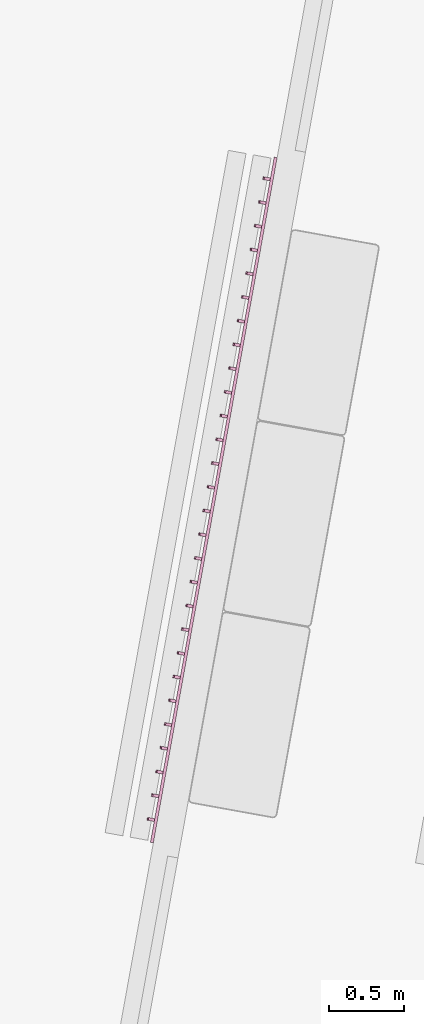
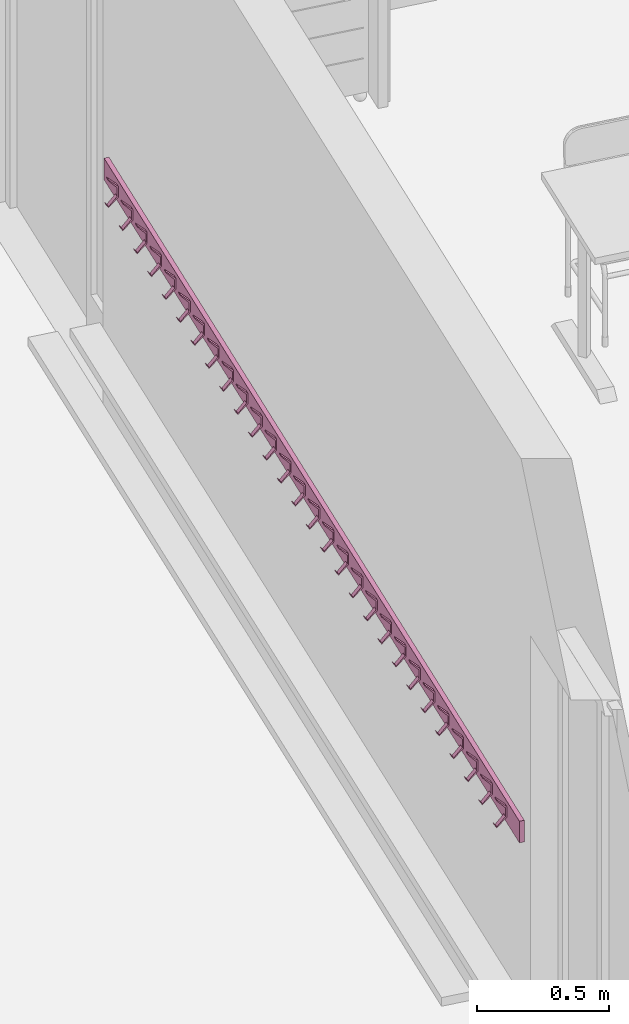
# One storey, part 12 of 79: 1 furnishing.
"""IFC2X3 building model written with IfcOpenShell, lengths in metres."""

from ifc_helpers import new_model, entity, si_unit, converted_unit, derived_unit, money_unit, direction, frame, origin_with_axes, place, context, subcontext, project, spatial, faceted_brep, source, transform, mapped, material, type_object, element, save


model = new_model("IFC2X3")

# Units and contexts
model_context = context("Model", 3, precision=1e-05, world=origin_with_axes(), true_north=direction((0.0, 1.0)))
body_context = subcontext(model_context, "Body", "Model", "MODEL_VIEW")
ifc_project = project(units=[si_unit("LENGTHUNIT", "METRE"), si_unit("AREAUNIT", "SQUARE_METRE"), si_unit("VOLUMEUNIT", "CUBIC_METRE"), converted_unit("PLANEANGLEUNIT", "DEGREE", entity("IfcPlaneAngleMeasure", 0.0174532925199), si_unit("PLANEANGLEUNIT", "RADIAN"), dimensions=[0, 0, 0, 0, 0, 0, 0]), money_unit("CHF"), converted_unit("TIMEUNIT", "Year", entity("IfcTimeMeasure", 31556926.0), si_unit("TIMEUNIT", "SECOND"), dimensions=[0, 0, 1, 0, 0, 0, 0]), si_unit("MASSUNIT", "GRAM", prefix="KILO"), si_unit("THERMODYNAMICTEMPERATUREUNIT", "DEGREE_CELSIUS"), si_unit("LUMINOUSINTENSITYUNIT", "LUMEN"), si_unit("ENERGYUNIT", "JOULE", prefix="MEGA"), derived_unit("THERMALCONDUCTANCEUNIT", [(si_unit("POWERUNIT", "WATT"), 1), (si_unit("LENGTHUNIT", "METRE"), -1), (si_unit("THERMODYNAMICTEMPERATUREUNIT", "KELVIN"), -1)]), derived_unit("SPECIFICHEATCAPACITYUNIT", [(si_unit("ENERGYUNIT", "JOULE"), 1), (si_unit("MASSUNIT", "GRAM", prefix="KILO"), -1), (si_unit("THERMODYNAMICTEMPERATUREUNIT", "KELVIN"), -1)]), derived_unit("MASSDENSITYUNIT", [(si_unit("MASSUNIT", "GRAM", prefix="KILO"), 1), (si_unit("VOLUMEUNIT", "CUBIC_METRE"), -1)])], contexts=[model_context])

# Site, building, storey
site_placement = place(None, frame((0.0, 0.0, 0.0), z_axis=(0.0, 0.0, 1.0), x_axis=(-0.177771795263, -0.984071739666, 0.0)))
site = spatial("IfcSite", under=ifc_project, at=site_placement, Name="Site", CompositionType="ELEMENT")
building_placement = place(site_placement, origin_with_axes())
building = spatial("IfcBuilding", under=site, at=building_placement, Name="Bâtiment", CompositionType="ELEMENT")
storey_placement = place(building_placement, origin_with_axes())
storey = spatial("IfcBuildingStorey", under=building, at=storey_placement, Name="RDC", CompositionType="ELEMENT", Elevation=0.0)

# Furnishing
ifc_material = material(Name="Matériau de construction IFC")
furnishing_element_type = type_object("IfcFurnishingElementType", Name="Râtelier mural 21")
shared_shape = source(origin_with_axes(), body_context, "Body", "Brep", [
    faceted_brep([(-2.33000000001, 0.0, 0.0), (2.33000000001, 0.0, 0.0), (2.33000000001, -0.02, 0.0), (-2.33000000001, -0.02, 0.0), (-2.33000000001, 0.0, 0.1), (2.33000000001, 0.0, 0.1), (2.33000000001, -0.02, 0.1), (-2.33000000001, -0.02, 0.1)], [[[0, 1, 2, 3]], [[1, 0, 4, 5]], [[2, 1, 5, 6]], [[3, 2, 6, 7]], [[0, 3, 7, 4]], [[5, 4, 7, 6]]]),
    faceted_brep([(2.16862068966, -0.06, -0.015), (2.16862068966, -0.02, 0.025), (2.18862068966, -0.02, 0.025), (2.18862068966, -0.06, -0.015), (2.16862068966, -0.07, 0.0), (2.16862068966, -0.0675, 0.0), (2.16862068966, -0.06, -0.01), (2.16862068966, -0.025, 0.03), (2.16862068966, -0.025, 0.07), (2.16862068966, -0.06, 0.11), (2.16862068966, -0.06, 0.115), (2.16862068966, -0.02, 0.075), (2.18862068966, -0.02, 0.075), (2.18862068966, -0.06, 0.115), (2.18862068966, -0.06, 0.11), (2.18862068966, -0.025, 0.07), (2.18862068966, -0.025, 0.03), (2.18862068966, -0.06, -0.01), (2.18862068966, -0.0675, 0.0), (2.18862068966, -0.07, 0.0)], [[[0, 1, 2, 3]], [[0, 4, 5, 6, 7, 8, 9, 10, 11, 1]], [[1, 11, 12, 2]], [[3, 2, 12, 13, 14, 15, 16, 17, 18, 19]], [[4, 0, 3, 19]], [[5, 4, 19, 18]], [[6, 5, 18, 17]], [[7, 6, 17, 16]], [[8, 7, 16, 15]], [[9, 8, 15, 14]], [[10, 9, 14, 13]], [[11, 10, 13, 12]]]),
    faceted_brep([(2.00724137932, -0.06, -0.015), (2.00724137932, -0.02, 0.025), (2.02724137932, -0.02, 0.025), (2.02724137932, -0.06, -0.015), (2.00724137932, -0.07, 0.0), (2.00724137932, -0.0675, 0.0), (2.00724137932, -0.06, -0.01), (2.00724137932, -0.025, 0.03), (2.00724137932, -0.025, 0.07), (2.00724137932, -0.06, 0.11), (2.00724137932, -0.06, 0.115), (2.00724137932, -0.02, 0.075), (2.02724137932, -0.02, 0.075), (2.02724137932, -0.06, 0.115), (2.02724137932, -0.06, 0.11), (2.02724137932, -0.025, 0.07), (2.02724137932, -0.025, 0.03), (2.02724137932, -0.06, -0.01), (2.02724137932, -0.0675, 0.0), (2.02724137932, -0.07, 0.0)], [[[0, 1, 2, 3]], [[0, 4, 5, 6, 7, 8, 9, 10, 11, 1]], [[1, 11, 12, 2]], [[3, 2, 12, 13, 14, 15, 16, 17, 18, 19]], [[4, 0, 3, 19]], [[5, 4, 19, 18]], [[6, 5, 18, 17]], [[7, 6, 17, 16]], [[8, 7, 16, 15]], [[9, 8, 15, 14]], [[10, 9, 14, 13]], [[11, 10, 13, 12]]]),
    faceted_brep([(1.84586206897, -0.06, -0.015), (1.84586206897, -0.02, 0.025), (1.86586206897, -0.02, 0.025), (1.86586206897, -0.06, -0.015), (1.84586206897, -0.07, 0.0), (1.84586206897, -0.0675, 0.0), (1.84586206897, -0.06, -0.01), (1.84586206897, -0.025, 0.03), (1.84586206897, -0.025, 0.07), (1.84586206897, -0.06, 0.11), (1.84586206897, -0.06, 0.115), (1.84586206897, -0.02, 0.075), (1.86586206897, -0.02, 0.075), (1.86586206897, -0.06, 0.115), (1.86586206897, -0.06, 0.11), (1.86586206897, -0.025, 0.07), (1.86586206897, -0.025, 0.03), (1.86586206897, -0.06, -0.01), (1.86586206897, -0.0675, 0.0), (1.86586206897, -0.07, 0.0)], [[[0, 1, 2, 3]], [[0, 4, 5, 6, 7, 8, 9, 10, 11, 1]], [[1, 11, 12, 2]], [[3, 2, 12, 13, 14, 15, 16, 17, 18, 19]], [[4, 0, 3, 19]], [[5, 4, 19, 18]], [[6, 5, 18, 17]], [[7, 6, 17, 16]], [[8, 7, 16, 15]], [[9, 8, 15, 14]], [[10, 9, 14, 13]], [[11, 10, 13, 12]]]),
    faceted_brep([(1.68448275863, -0.06, -0.015), (1.68448275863, -0.02, 0.025), (1.70448275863, -0.02, 0.025), (1.70448275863, -0.06, -0.015), (1.68448275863, -0.07, 0.0), (1.68448275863, -0.0675, 0.0), (1.68448275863, -0.06, -0.01), (1.68448275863, -0.025, 0.03), (1.68448275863, -0.025, 0.07), (1.68448275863, -0.06, 0.11), (1.68448275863, -0.06, 0.115), (1.68448275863, -0.02, 0.075), (1.70448275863, -0.02, 0.075), (1.70448275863, -0.06, 0.115), (1.70448275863, -0.06, 0.11), (1.70448275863, -0.025, 0.07), (1.70448275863, -0.025, 0.03), (1.70448275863, -0.06, -0.01), (1.70448275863, -0.0675, 0.0), (1.70448275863, -0.07, 0.0)], [[[0, 1, 2, 3]], [[0, 4, 5, 6, 7, 8, 9, 10, 11, 1]], [[1, 11, 12, 2]], [[3, 2, 12, 13, 14, 15, 16, 17, 18, 19]], [[4, 0, 3, 19]], [[5, 4, 19, 18]], [[6, 5, 18, 17]], [[7, 6, 17, 16]], [[8, 7, 16, 15]], [[9, 8, 15, 14]], [[10, 9, 14, 13]], [[11, 10, 13, 12]]]),
    faceted_brep([(1.52310344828, -0.06, -0.015), (1.52310344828, -0.02, 0.025), (1.54310344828, -0.02, 0.025), (1.54310344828, -0.06, -0.015), (1.52310344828, -0.07, 0.0), (1.52310344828, -0.0675, 0.0), (1.52310344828, -0.06, -0.01), (1.52310344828, -0.025, 0.03), (1.52310344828, -0.025, 0.07), (1.52310344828, -0.06, 0.11), (1.52310344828, -0.06, 0.115), (1.52310344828, -0.02, 0.075), (1.54310344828, -0.02, 0.075), (1.54310344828, -0.06, 0.115), (1.54310344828, -0.06, 0.11), (1.54310344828, -0.025, 0.07), (1.54310344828, -0.025, 0.03), (1.54310344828, -0.06, -0.01), (1.54310344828, -0.0675, 0.0), (1.54310344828, -0.07, 0.0)], [[[0, 1, 2, 3]], [[0, 4, 5, 6, 7, 8, 9, 10, 11, 1]], [[1, 11, 12, 2]], [[3, 2, 12, 13, 14, 15, 16, 17, 18, 19]], [[4, 0, 3, 19]], [[5, 4, 19, 18]], [[6, 5, 18, 17]], [[7, 6, 17, 16]], [[8, 7, 16, 15]], [[9, 8, 15, 14]], [[10, 9, 14, 13]], [[11, 10, 13, 12]]]),
    faceted_brep([(1.36172413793, -0.06, -0.015), (1.36172413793, -0.02, 0.025), (1.38172413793, -0.02, 0.025), (1.38172413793, -0.06, -0.015), (1.36172413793, -0.07, 0.0), (1.36172413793, -0.0675, 0.0), (1.36172413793, -0.06, -0.01), (1.36172413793, -0.025, 0.03), (1.36172413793, -0.025, 0.07), (1.36172413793, -0.06, 0.11), (1.36172413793, -0.06, 0.115), (1.36172413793, -0.02, 0.075), (1.38172413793, -0.02, 0.075), (1.38172413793, -0.06, 0.115), (1.38172413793, -0.06, 0.11), (1.38172413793, -0.025, 0.07), (1.38172413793, -0.025, 0.03), (1.38172413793, -0.06, -0.01), (1.38172413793, -0.0675, 0.0), (1.38172413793, -0.07, 0.0)], [[[0, 1, 2, 3]], [[0, 4, 5, 6, 7, 8, 9, 10, 11, 1]], [[1, 11, 12, 2]], [[3, 2, 12, 13, 14, 15, 16, 17, 18, 19]], [[4, 0, 3, 19]], [[5, 4, 19, 18]], [[6, 5, 18, 17]], [[7, 6, 17, 16]], [[8, 7, 16, 15]], [[9, 8, 15, 14]], [[10, 9, 14, 13]], [[11, 10, 13, 12]]]),
    faceted_brep([(1.20034482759, -0.06, -0.015), (1.20034482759, -0.02, 0.025), (1.22034482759, -0.02, 0.025), (1.22034482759, -0.06, -0.015), (1.20034482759, -0.07, 0.0), (1.20034482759, -0.0675, 0.0), (1.20034482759, -0.06, -0.01), (1.20034482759, -0.025, 0.03), (1.20034482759, -0.025, 0.07), (1.20034482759, -0.06, 0.11), (1.20034482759, -0.06, 0.115), (1.20034482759, -0.02, 0.075), (1.22034482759, -0.02, 0.075), (1.22034482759, -0.06, 0.115), (1.22034482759, -0.06, 0.11), (1.22034482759, -0.025, 0.07), (1.22034482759, -0.025, 0.03), (1.22034482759, -0.06, -0.01), (1.22034482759, -0.0675, 0.0), (1.22034482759, -0.07, 0.0)], [[[0, 1, 2, 3]], [[0, 4, 5, 6, 7, 8, 9, 10, 11, 1]], [[1, 11, 12, 2]], [[3, 2, 12, 13, 14, 15, 16, 17, 18, 19]], [[4, 0, 3, 19]], [[5, 4, 19, 18]], [[6, 5, 18, 17]], [[7, 6, 17, 16]], [[8, 7, 16, 15]], [[9, 8, 15, 14]], [[10, 9, 14, 13]], [[11, 10, 13, 12]]]),
    faceted_brep([(1.03896551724, -0.06, -0.015), (1.03896551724, -0.02, 0.025), (1.05896551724, -0.02, 0.025), (1.05896551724, -0.06, -0.015), (1.03896551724, -0.07, 0.0), (1.03896551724, -0.0675, 0.0), (1.03896551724, -0.06, -0.01), (1.03896551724, -0.025, 0.03), (1.03896551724, -0.025, 0.07), (1.03896551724, -0.06, 0.11), (1.03896551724, -0.06, 0.115), (1.03896551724, -0.02, 0.075), (1.05896551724, -0.02, 0.075), (1.05896551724, -0.06, 0.115), (1.05896551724, -0.06, 0.11), (1.05896551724, -0.025, 0.07), (1.05896551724, -0.025, 0.03), (1.05896551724, -0.06, -0.01), (1.05896551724, -0.0675, 0.0), (1.05896551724, -0.07, 0.0)], [[[0, 1, 2, 3]], [[0, 4, 5, 6, 7, 8, 9, 10, 11, 1]], [[1, 11, 12, 2]], [[3, 2, 12, 13, 14, 15, 16, 17, 18, 19]], [[4, 0, 3, 19]], [[5, 4, 19, 18]], [[6, 5, 18, 17]], [[7, 6, 17, 16]], [[8, 7, 16, 15]], [[9, 8, 15, 14]], [[10, 9, 14, 13]], [[11, 10, 13, 12]]]),
    faceted_brep([(0.877586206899, -0.06, -0.015), (0.877586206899, -0.02, 0.025), (0.897586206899, -0.02, 0.025), (0.897586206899, -0.06, -0.015), (0.877586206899, -0.07, 0.0), (0.877586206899, -0.0675, 0.0), (0.877586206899, -0.06, -0.01), (0.877586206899, -0.025, 0.03), (0.877586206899, -0.025, 0.07), (0.877586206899, -0.06, 0.11), (0.877586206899, -0.06, 0.115), (0.877586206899, -0.02, 0.075), (0.897586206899, -0.02, 0.075), (0.897586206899, -0.06, 0.115), (0.897586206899, -0.06, 0.11), (0.897586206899, -0.025, 0.07), (0.897586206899, -0.025, 0.03), (0.897586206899, -0.06, -0.01), (0.897586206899, -0.0675, 0.0), (0.897586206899, -0.07, 0.0)], [[[0, 1, 2, 3]], [[0, 4, 5, 6, 7, 8, 9, 10, 11, 1]], [[1, 11, 12, 2]], [[3, 2, 12, 13, 14, 15, 16, 17, 18, 19]], [[4, 0, 3, 19]], [[5, 4, 19, 18]], [[6, 5, 18, 17]], [[7, 6, 17, 16]], [[8, 7, 16, 15]], [[9, 8, 15, 14]], [[10, 9, 14, 13]], [[11, 10, 13, 12]]]),
    faceted_brep([(0.716206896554, -0.06, -0.015), (0.716206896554, -0.02, 0.025), (0.736206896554, -0.02, 0.025), (0.736206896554, -0.06, -0.015), (0.716206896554, -0.07, 0.0), (0.716206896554, -0.0675, 0.0), (0.716206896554, -0.06, -0.01), (0.716206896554, -0.025, 0.03), (0.716206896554, -0.025, 0.07), (0.716206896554, -0.06, 0.11), (0.716206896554, -0.06, 0.115), (0.716206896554, -0.02, 0.075), (0.736206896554, -0.02, 0.075), (0.736206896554, -0.06, 0.115), (0.736206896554, -0.06, 0.11), (0.736206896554, -0.025, 0.07), (0.736206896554, -0.025, 0.03), (0.736206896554, -0.06, -0.01), (0.736206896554, -0.0675, 0.0), (0.736206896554, -0.07, 0.0)], [[[0, 1, 2, 3]], [[0, 4, 5, 6, 7, 8, 9, 10, 11, 1]], [[1, 11, 12, 2]], [[3, 2, 12, 13, 14, 15, 16, 17, 18, 19]], [[4, 0, 3, 19]], [[5, 4, 19, 18]], [[6, 5, 18, 17]], [[7, 6, 17, 16]], [[8, 7, 16, 15]], [[9, 8, 15, 14]], [[10, 9, 14, 13]], [[11, 10, 13, 12]]]),
    faceted_brep([(0.554827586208, -0.06, -0.015), (0.554827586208, -0.02, 0.025), (0.574827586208, -0.02, 0.025), (0.574827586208, -0.06, -0.015), (0.554827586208, -0.07, 0.0), (0.554827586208, -0.0675, 0.0), (0.554827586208, -0.06, -0.01), (0.554827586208, -0.025, 0.03), (0.554827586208, -0.025, 0.07), (0.554827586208, -0.06, 0.11), (0.554827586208, -0.06, 0.115), (0.554827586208, -0.02, 0.075), (0.574827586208, -0.02, 0.075), (0.574827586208, -0.06, 0.115), (0.574827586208, -0.06, 0.11), (0.574827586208, -0.025, 0.07), (0.574827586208, -0.025, 0.03), (0.574827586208, -0.06, -0.01), (0.574827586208, -0.0675, 0.0), (0.574827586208, -0.07, 0.0)], [[[0, 1, 2, 3]], [[0, 4, 5, 6, 7, 8, 9, 10, 11, 1]], [[1, 11, 12, 2]], [[3, 2, 12, 13, 14, 15, 16, 17, 18, 19]], [[4, 0, 3, 19]], [[5, 4, 19, 18]], [[6, 5, 18, 17]], [[7, 6, 17, 16]], [[8, 7, 16, 15]], [[9, 8, 15, 14]], [[10, 9, 14, 13]], [[11, 10, 13, 12]]]),
    faceted_brep([(0.393448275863, -0.06, -0.015), (0.393448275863, -0.02, 0.025), (0.413448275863, -0.02, 0.025), (0.413448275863, -0.06, -0.015), (0.393448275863, -0.07, 0.0), (0.393448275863, -0.0675, 0.0), (0.393448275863, -0.06, -0.01), (0.393448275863, -0.025, 0.03), (0.393448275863, -0.025, 0.07), (0.393448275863, -0.06, 0.11), (0.393448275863, -0.06, 0.115), (0.393448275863, -0.02, 0.075), (0.413448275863, -0.02, 0.075), (0.413448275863, -0.06, 0.115), (0.413448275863, -0.06, 0.11), (0.413448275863, -0.025, 0.07), (0.413448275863, -0.025, 0.03), (0.413448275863, -0.06, -0.01), (0.413448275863, -0.0675, 0.0), (0.413448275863, -0.07, 0.0)], [[[0, 1, 2, 3]], [[0, 4, 5, 6, 7, 8, 9, 10, 11, 1]], [[1, 11, 12, 2]], [[3, 2, 12, 13, 14, 15, 16, 17, 18, 19]], [[4, 0, 3, 19]], [[5, 4, 19, 18]], [[6, 5, 18, 17]], [[7, 6, 17, 16]], [[8, 7, 16, 15]], [[9, 8, 15, 14]], [[10, 9, 14, 13]], [[11, 10, 13, 12]]]),
    faceted_brep([(0.232068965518, -0.06, -0.015), (0.232068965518, -0.02, 0.025), (0.252068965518, -0.02, 0.025), (0.252068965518, -0.06, -0.015), (0.232068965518, -0.07, 0.0), (0.232068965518, -0.0675, 0.0), (0.232068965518, -0.06, -0.01), (0.232068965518, -0.025, 0.03), (0.232068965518, -0.025, 0.07), (0.232068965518, -0.06, 0.11), (0.232068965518, -0.06, 0.115), (0.232068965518, -0.02, 0.075), (0.252068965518, -0.02, 0.075), (0.252068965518, -0.06, 0.115), (0.252068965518, -0.06, 0.11), (0.252068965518, -0.025, 0.07), (0.252068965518, -0.025, 0.03), (0.252068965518, -0.06, -0.01), (0.252068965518, -0.0675, 0.0), (0.252068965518, -0.07, 0.0)], [[[0, 1, 2, 3]], [[0, 4, 5, 6, 7, 8, 9, 10, 11, 1]], [[1, 11, 12, 2]], [[3, 2, 12, 13, 14, 15, 16, 17, 18, 19]], [[4, 0, 3, 19]], [[5, 4, 19, 18]], [[6, 5, 18, 17]], [[7, 6, 17, 16]], [[8, 7, 16, 15]], [[9, 8, 15, 14]], [[10, 9, 14, 13]], [[11, 10, 13, 12]]]),
    faceted_brep([(0.0706896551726, -0.06, -0.015), (0.0706896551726, -0.02, 0.025), (0.0906896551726, -0.02, 0.025), (0.0906896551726, -0.06, -0.015), (0.0706896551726, -0.07, 0.0), (0.0706896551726, -0.0675, 0.0), (0.0706896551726, -0.06, -0.01), (0.0706896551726, -0.025, 0.03), (0.0706896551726, -0.025, 0.07), (0.0706896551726, -0.06, 0.11), (0.0706896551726, -0.06, 0.115), (0.0706896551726, -0.02, 0.075), (0.0906896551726, -0.02, 0.075), (0.0906896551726, -0.06, 0.115), (0.0906896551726, -0.06, 0.11), (0.0906896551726, -0.025, 0.07), (0.0906896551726, -0.025, 0.03), (0.0906896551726, -0.06, -0.01), (0.0906896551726, -0.0675, 0.0), (0.0906896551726, -0.07, 0.0)], [[[0, 1, 2, 3]], [[0, 4, 5, 6, 7, 8, 9, 10, 11, 1]], [[1, 11, 12, 2]], [[3, 2, 12, 13, 14, 15, 16, 17, 18, 19]], [[4, 0, 3, 19]], [[5, 4, 19, 18]], [[6, 5, 18, 17]], [[7, 6, 17, 16]], [[8, 7, 16, 15]], [[9, 8, 15, 14]], [[10, 9, 14, 13]], [[11, 10, 13, 12]]]),
    faceted_brep([(-0.0906896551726, -0.06, -0.015), (-0.0906896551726, -0.02, 0.025), (-0.0706896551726, -0.02, 0.025), (-0.0706896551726, -0.06, -0.015), (-0.0906896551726, -0.07, 0.0), (-0.0906896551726, -0.0675, 0.0), (-0.0906896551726, -0.06, -0.01), (-0.0906896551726, -0.025, 0.03), (-0.0906896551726, -0.025, 0.07), (-0.0906896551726, -0.06, 0.11), (-0.0906896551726, -0.06, 0.115), (-0.0906896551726, -0.02, 0.075), (-0.0706896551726, -0.02, 0.075), (-0.0706896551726, -0.06, 0.115), (-0.0706896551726, -0.06, 0.11), (-0.0706896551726, -0.025, 0.07), (-0.0706896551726, -0.025, 0.03), (-0.0706896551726, -0.06, -0.01), (-0.0706896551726, -0.0675, 0.0), (-0.0706896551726, -0.07, 0.0)], [[[0, 1, 2, 3]], [[0, 4, 5, 6, 7, 8, 9, 10, 11, 1]], [[1, 11, 12, 2]], [[3, 2, 12, 13, 14, 15, 16, 17, 18, 19]], [[4, 0, 3, 19]], [[5, 4, 19, 18]], [[6, 5, 18, 17]], [[7, 6, 17, 16]], [[8, 7, 16, 15]], [[9, 8, 15, 14]], [[10, 9, 14, 13]], [[11, 10, 13, 12]]]),
    faceted_brep([(-0.252068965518, -0.06, -0.015), (-0.252068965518, -0.02, 0.025), (-0.232068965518, -0.02, 0.025), (-0.232068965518, -0.06, -0.015), (-0.252068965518, -0.07, 0.0), (-0.252068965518, -0.0675, 0.0), (-0.252068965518, -0.06, -0.01), (-0.252068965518, -0.025, 0.03), (-0.252068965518, -0.025, 0.07), (-0.252068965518, -0.06, 0.11), (-0.252068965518, -0.06, 0.115), (-0.252068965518, -0.02, 0.075), (-0.232068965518, -0.02, 0.075), (-0.232068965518, -0.06, 0.115), (-0.232068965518, -0.06, 0.11), (-0.232068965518, -0.025, 0.07), (-0.232068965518, -0.025, 0.03), (-0.232068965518, -0.06, -0.01), (-0.232068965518, -0.0675, 0.0), (-0.232068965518, -0.07, 0.0)], [[[0, 1, 2, 3]], [[0, 4, 5, 6, 7, 8, 9, 10, 11, 1]], [[1, 11, 12, 2]], [[3, 2, 12, 13, 14, 15, 16, 17, 18, 19]], [[4, 0, 3, 19]], [[5, 4, 19, 18]], [[6, 5, 18, 17]], [[7, 6, 17, 16]], [[8, 7, 16, 15]], [[9, 8, 15, 14]], [[10, 9, 14, 13]], [[11, 10, 13, 12]]]),
    faceted_brep([(-0.413448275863, -0.06, -0.015), (-0.413448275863, -0.02, 0.025), (-0.393448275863, -0.02, 0.025), (-0.393448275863, -0.06, -0.015), (-0.413448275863, -0.07, 0.0), (-0.413448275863, -0.0675, 0.0), (-0.413448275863, -0.06, -0.01), (-0.413448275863, -0.025, 0.03), (-0.413448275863, -0.025, 0.07), (-0.413448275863, -0.06, 0.11), (-0.413448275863, -0.06, 0.115), (-0.413448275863, -0.02, 0.075), (-0.393448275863, -0.02, 0.075), (-0.393448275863, -0.06, 0.115), (-0.393448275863, -0.06, 0.11), (-0.393448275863, -0.025, 0.07), (-0.393448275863, -0.025, 0.03), (-0.393448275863, -0.06, -0.01), (-0.393448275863, -0.0675, 0.0), (-0.393448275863, -0.07, 0.0)], [[[0, 1, 2, 3]], [[0, 4, 5, 6, 7, 8, 9, 10, 11, 1]], [[1, 11, 12, 2]], [[3, 2, 12, 13, 14, 15, 16, 17, 18, 19]], [[4, 0, 3, 19]], [[5, 4, 19, 18]], [[6, 5, 18, 17]], [[7, 6, 17, 16]], [[8, 7, 16, 15]], [[9, 8, 15, 14]], [[10, 9, 14, 13]], [[11, 10, 13, 12]]]),
    faceted_brep([(-0.574827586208, -0.06, -0.015), (-0.574827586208, -0.02, 0.025), (-0.554827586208, -0.02, 0.025), (-0.554827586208, -0.06, -0.015), (-0.574827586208, -0.07, 0.0), (-0.574827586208, -0.0675, 0.0), (-0.574827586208, -0.06, -0.01), (-0.574827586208, -0.025, 0.03), (-0.574827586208, -0.025, 0.07), (-0.574827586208, -0.06, 0.11), (-0.574827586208, -0.06, 0.115), (-0.574827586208, -0.02, 0.075), (-0.554827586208, -0.02, 0.075), (-0.554827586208, -0.06, 0.115), (-0.554827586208, -0.06, 0.11), (-0.554827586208, -0.025, 0.07), (-0.554827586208, -0.025, 0.03), (-0.554827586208, -0.06, -0.01), (-0.554827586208, -0.0675, 0.0), (-0.554827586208, -0.07, 0.0)], [[[0, 1, 2, 3]], [[0, 4, 5, 6, 7, 8, 9, 10, 11, 1]], [[1, 11, 12, 2]], [[3, 2, 12, 13, 14, 15, 16, 17, 18, 19]], [[4, 0, 3, 19]], [[5, 4, 19, 18]], [[6, 5, 18, 17]], [[7, 6, 17, 16]], [[8, 7, 16, 15]], [[9, 8, 15, 14]], [[10, 9, 14, 13]], [[11, 10, 13, 12]]]),
    faceted_brep([(-0.736206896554, -0.06, -0.015), (-0.736206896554, -0.02, 0.025), (-0.716206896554, -0.02, 0.025), (-0.716206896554, -0.06, -0.015), (-0.736206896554, -0.07, 0.0), (-0.736206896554, -0.0675, 0.0), (-0.736206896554, -0.06, -0.01), (-0.736206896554, -0.025, 0.03), (-0.736206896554, -0.025, 0.07), (-0.736206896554, -0.06, 0.11), (-0.736206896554, -0.06, 0.115), (-0.736206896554, -0.02, 0.075), (-0.716206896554, -0.02, 0.075), (-0.716206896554, -0.06, 0.115), (-0.716206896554, -0.06, 0.11), (-0.716206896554, -0.025, 0.07), (-0.716206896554, -0.025, 0.03), (-0.716206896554, -0.06, -0.01), (-0.716206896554, -0.0675, 0.0), (-0.716206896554, -0.07, 0.0)], [[[0, 1, 2, 3]], [[0, 4, 5, 6, 7, 8, 9, 10, 11, 1]], [[1, 11, 12, 2]], [[3, 2, 12, 13, 14, 15, 16, 17, 18, 19]], [[4, 0, 3, 19]], [[5, 4, 19, 18]], [[6, 5, 18, 17]], [[7, 6, 17, 16]], [[8, 7, 16, 15]], [[9, 8, 15, 14]], [[10, 9, 14, 13]], [[11, 10, 13, 12]]]),
    faceted_brep([(-0.897586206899, -0.06, -0.015), (-0.897586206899, -0.02, 0.025), (-0.877586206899, -0.02, 0.025), (-0.877586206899, -0.06, -0.015), (-0.897586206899, -0.07, 0.0), (-0.897586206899, -0.0675, 0.0), (-0.897586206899, -0.06, -0.01), (-0.897586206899, -0.025, 0.03), (-0.897586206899, -0.025, 0.07), (-0.897586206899, -0.06, 0.11), (-0.897586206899, -0.06, 0.115), (-0.897586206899, -0.02, 0.075), (-0.877586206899, -0.02, 0.075), (-0.877586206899, -0.06, 0.115), (-0.877586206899, -0.06, 0.11), (-0.877586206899, -0.025, 0.07), (-0.877586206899, -0.025, 0.03), (-0.877586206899, -0.06, -0.01), (-0.877586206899, -0.0675, 0.0), (-0.877586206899, -0.07, 0.0)], [[[0, 1, 2, 3]], [[0, 4, 5, 6, 7, 8, 9, 10, 11, 1]], [[1, 11, 12, 2]], [[3, 2, 12, 13, 14, 15, 16, 17, 18, 19]], [[4, 0, 3, 19]], [[5, 4, 19, 18]], [[6, 5, 18, 17]], [[7, 6, 17, 16]], [[8, 7, 16, 15]], [[9, 8, 15, 14]], [[10, 9, 14, 13]], [[11, 10, 13, 12]]]),
    faceted_brep([(-1.05896551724, -0.06, -0.015), (-1.05896551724, -0.02, 0.025), (-1.03896551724, -0.02, 0.025), (-1.03896551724, -0.06, -0.015), (-1.05896551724, -0.07, 0.0), (-1.05896551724, -0.0675, 0.0), (-1.05896551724, -0.06, -0.01), (-1.05896551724, -0.025, 0.03), (-1.05896551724, -0.025, 0.07), (-1.05896551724, -0.06, 0.11), (-1.05896551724, -0.06, 0.115), (-1.05896551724, -0.02, 0.075), (-1.03896551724, -0.02, 0.075), (-1.03896551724, -0.06, 0.115), (-1.03896551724, -0.06, 0.11), (-1.03896551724, -0.025, 0.07), (-1.03896551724, -0.025, 0.03), (-1.03896551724, -0.06, -0.01), (-1.03896551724, -0.0675, 0.0), (-1.03896551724, -0.07, 0.0)], [[[0, 1, 2, 3]], [[0, 4, 5, 6, 7, 8, 9, 10, 11, 1]], [[1, 11, 12, 2]], [[3, 2, 12, 13, 14, 15, 16, 17, 18, 19]], [[4, 0, 3, 19]], [[5, 4, 19, 18]], [[6, 5, 18, 17]], [[7, 6, 17, 16]], [[8, 7, 16, 15]], [[9, 8, 15, 14]], [[10, 9, 14, 13]], [[11, 10, 13, 12]]]),
    faceted_brep([(-1.22034482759, -0.06, -0.015), (-1.22034482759, -0.02, 0.025), (-1.20034482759, -0.02, 0.025), (-1.20034482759, -0.06, -0.015), (-1.22034482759, -0.07, 0.0), (-1.22034482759, -0.0675, 0.0), (-1.22034482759, -0.06, -0.01), (-1.22034482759, -0.025, 0.03), (-1.22034482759, -0.025, 0.07), (-1.22034482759, -0.06, 0.11), (-1.22034482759, -0.06, 0.115), (-1.22034482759, -0.02, 0.075), (-1.20034482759, -0.02, 0.075), (-1.20034482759, -0.06, 0.115), (-1.20034482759, -0.06, 0.11), (-1.20034482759, -0.025, 0.07), (-1.20034482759, -0.025, 0.03), (-1.20034482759, -0.06, -0.01), (-1.20034482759, -0.0675, 0.0), (-1.20034482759, -0.07, 0.0)], [[[0, 1, 2, 3]], [[0, 4, 5, 6, 7, 8, 9, 10, 11, 1]], [[1, 11, 12, 2]], [[3, 2, 12, 13, 14, 15, 16, 17, 18, 19]], [[4, 0, 3, 19]], [[5, 4, 19, 18]], [[6, 5, 18, 17]], [[7, 6, 17, 16]], [[8, 7, 16, 15]], [[9, 8, 15, 14]], [[10, 9, 14, 13]], [[11, 10, 13, 12]]]),
    faceted_brep([(-1.38172413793, -0.06, -0.015), (-1.38172413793, -0.02, 0.025), (-1.36172413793, -0.02, 0.025), (-1.36172413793, -0.06, -0.015), (-1.38172413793, -0.07, 0.0), (-1.38172413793, -0.0675, 0.0), (-1.38172413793, -0.06, -0.01), (-1.38172413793, -0.025, 0.03), (-1.38172413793, -0.025, 0.07), (-1.38172413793, -0.06, 0.11), (-1.38172413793, -0.06, 0.115), (-1.38172413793, -0.02, 0.075), (-1.36172413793, -0.02, 0.075), (-1.36172413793, -0.06, 0.115), (-1.36172413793, -0.06, 0.11), (-1.36172413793, -0.025, 0.07), (-1.36172413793, -0.025, 0.03), (-1.36172413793, -0.06, -0.01), (-1.36172413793, -0.0675, 0.0), (-1.36172413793, -0.07, 0.0)], [[[0, 1, 2, 3]], [[0, 4, 5, 6, 7, 8, 9, 10, 11, 1]], [[1, 11, 12, 2]], [[3, 2, 12, 13, 14, 15, 16, 17, 18, 19]], [[4, 0, 3, 19]], [[5, 4, 19, 18]], [[6, 5, 18, 17]], [[7, 6, 17, 16]], [[8, 7, 16, 15]], [[9, 8, 15, 14]], [[10, 9, 14, 13]], [[11, 10, 13, 12]]]),
    faceted_brep([(-1.54310344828, -0.06, -0.015), (-1.54310344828, -0.02, 0.025), (-1.52310344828, -0.02, 0.025), (-1.52310344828, -0.06, -0.015), (-1.54310344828, -0.07, 0.0), (-1.54310344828, -0.0675, 0.0), (-1.54310344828, -0.06, -0.01), (-1.54310344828, -0.025, 0.03), (-1.54310344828, -0.025, 0.07), (-1.54310344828, -0.06, 0.11), (-1.54310344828, -0.06, 0.115), (-1.54310344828, -0.02, 0.075), (-1.52310344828, -0.02, 0.075), (-1.52310344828, -0.06, 0.115), (-1.52310344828, -0.06, 0.11), (-1.52310344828, -0.025, 0.07), (-1.52310344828, -0.025, 0.03), (-1.52310344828, -0.06, -0.01), (-1.52310344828, -0.0675, 0.0), (-1.52310344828, -0.07, 0.0)], [[[0, 1, 2, 3]], [[0, 4, 5, 6, 7, 8, 9, 10, 11, 1]], [[1, 11, 12, 2]], [[3, 2, 12, 13, 14, 15, 16, 17, 18, 19]], [[4, 0, 3, 19]], [[5, 4, 19, 18]], [[6, 5, 18, 17]], [[7, 6, 17, 16]], [[8, 7, 16, 15]], [[9, 8, 15, 14]], [[10, 9, 14, 13]], [[11, 10, 13, 12]]]),
    faceted_brep([(-1.70448275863, -0.06, -0.015), (-1.70448275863, -0.02, 0.025), (-1.68448275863, -0.02, 0.025), (-1.68448275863, -0.06, -0.015), (-1.70448275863, -0.07, 0.0), (-1.70448275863, -0.0675, 0.0), (-1.70448275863, -0.06, -0.01), (-1.70448275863, -0.025, 0.03), (-1.70448275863, -0.025, 0.07), (-1.70448275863, -0.06, 0.11), (-1.70448275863, -0.06, 0.115), (-1.70448275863, -0.02, 0.075), (-1.68448275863, -0.02, 0.075), (-1.68448275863, -0.06, 0.115), (-1.68448275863, -0.06, 0.11), (-1.68448275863, -0.025, 0.07), (-1.68448275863, -0.025, 0.03), (-1.68448275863, -0.06, -0.01), (-1.68448275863, -0.0675, 0.0), (-1.68448275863, -0.07, 0.0)], [[[0, 1, 2, 3]], [[0, 4, 5, 6, 7, 8, 9, 10, 11, 1]], [[1, 11, 12, 2]], [[3, 2, 12, 13, 14, 15, 16, 17, 18, 19]], [[4, 0, 3, 19]], [[5, 4, 19, 18]], [[6, 5, 18, 17]], [[7, 6, 17, 16]], [[8, 7, 16, 15]], [[9, 8, 15, 14]], [[10, 9, 14, 13]], [[11, 10, 13, 12]]]),
    faceted_brep([(-1.86586206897, -0.06, -0.015), (-1.86586206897, -0.02, 0.025), (-1.84586206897, -0.02, 0.025), (-1.84586206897, -0.06, -0.015), (-1.86586206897, -0.07, 0.0), (-1.86586206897, -0.0675, 0.0), (-1.86586206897, -0.06, -0.01), (-1.86586206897, -0.025, 0.03), (-1.86586206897, -0.025, 0.07), (-1.86586206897, -0.06, 0.11), (-1.86586206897, -0.06, 0.115), (-1.86586206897, -0.02, 0.075), (-1.84586206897, -0.02, 0.075), (-1.84586206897, -0.06, 0.115), (-1.84586206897, -0.06, 0.11), (-1.84586206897, -0.025, 0.07), (-1.84586206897, -0.025, 0.03), (-1.84586206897, -0.06, -0.01), (-1.84586206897, -0.0675, 0.0), (-1.84586206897, -0.07, 0.0)], [[[0, 1, 2, 3]], [[0, 4, 5, 6, 7, 8, 9, 10, 11, 1]], [[1, 11, 12, 2]], [[3, 2, 12, 13, 14, 15, 16, 17, 18, 19]], [[4, 0, 3, 19]], [[5, 4, 19, 18]], [[6, 5, 18, 17]], [[7, 6, 17, 16]], [[8, 7, 16, 15]], [[9, 8, 15, 14]], [[10, 9, 14, 13]], [[11, 10, 13, 12]]]),
    faceted_brep([(-2.02724137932, -0.06, -0.015), (-2.02724137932, -0.02, 0.025), (-2.00724137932, -0.02, 0.025), (-2.00724137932, -0.06, -0.015), (-2.02724137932, -0.07, 0.0), (-2.02724137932, -0.0675, 0.0), (-2.02724137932, -0.06, -0.01), (-2.02724137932, -0.025, 0.03), (-2.02724137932, -0.025, 0.07), (-2.02724137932, -0.06, 0.11), (-2.02724137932, -0.06, 0.115), (-2.02724137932, -0.02, 0.075), (-2.00724137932, -0.02, 0.075), (-2.00724137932, -0.06, 0.115), (-2.00724137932, -0.06, 0.11), (-2.00724137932, -0.025, 0.07), (-2.00724137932, -0.025, 0.03), (-2.00724137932, -0.06, -0.01), (-2.00724137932, -0.0675, 0.0), (-2.00724137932, -0.07, 0.0)], [[[0, 1, 2, 3]], [[0, 4, 5, 6, 7, 8, 9, 10, 11, 1]], [[1, 11, 12, 2]], [[3, 2, 12, 13, 14, 15, 16, 17, 18, 19]], [[4, 0, 3, 19]], [[5, 4, 19, 18]], [[6, 5, 18, 17]], [[7, 6, 17, 16]], [[8, 7, 16, 15]], [[9, 8, 15, 14]], [[10, 9, 14, 13]], [[11, 10, 13, 12]]]),
    faceted_brep([(-2.18862068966, -0.06, -0.015), (-2.18862068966, -0.02, 0.025), (-2.16862068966, -0.02, 0.025), (-2.16862068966, -0.06, -0.015), (-2.18862068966, -0.07, 0.0), (-2.18862068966, -0.0675, 0.0), (-2.18862068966, -0.06, -0.01), (-2.18862068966, -0.025, 0.03), (-2.18862068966, -0.025, 0.07), (-2.18862068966, -0.06, 0.11), (-2.18862068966, -0.06, 0.115), (-2.18862068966, -0.02, 0.075), (-2.16862068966, -0.02, 0.075), (-2.16862068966, -0.06, 0.115), (-2.16862068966, -0.06, 0.11), (-2.16862068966, -0.025, 0.07), (-2.16862068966, -0.025, 0.03), (-2.16862068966, -0.06, -0.01), (-2.16862068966, -0.0675, 0.0), (-2.16862068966, -0.07, 0.0)], [[[0, 1, 2, 3]], [[0, 4, 5, 6, 7, 8, 9, 10, 11, 1]], [[1, 11, 12, 2]], [[3, 2, 12, 13, 14, 15, 16, 17, 18, 19]], [[4, 0, 3, 19]], [[5, 4, 19, 18]], [[6, 5, 18, 17]], [[7, 6, 17, 16]], [[8, 7, 16, 15]], [[9, 8, 15, 14]], [[10, 9, 14, 13]], [[11, 10, 13, 12]]]),
])
furnishing_placement = place(storey_placement, frame((114.604841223, -156.627151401, 1.1), z_axis=(0.0, 0.0, 1.0), x_axis=(1.0, 0.0, 0.0)))
element("IfcFurnishingElement", 1, at=furnishing_placement, inside=storey, type_object=furnishing_element_type, material=ifc_material, Name="pateres-couloir", ObjectType="SYSTEM_FURNITURE", context=body_context, shape_type="MappedRepresentation", body=[
    mapped(shared_shape, transform((0.0, 0.0, 0.0))),
])

save(model, "model.ifc")
